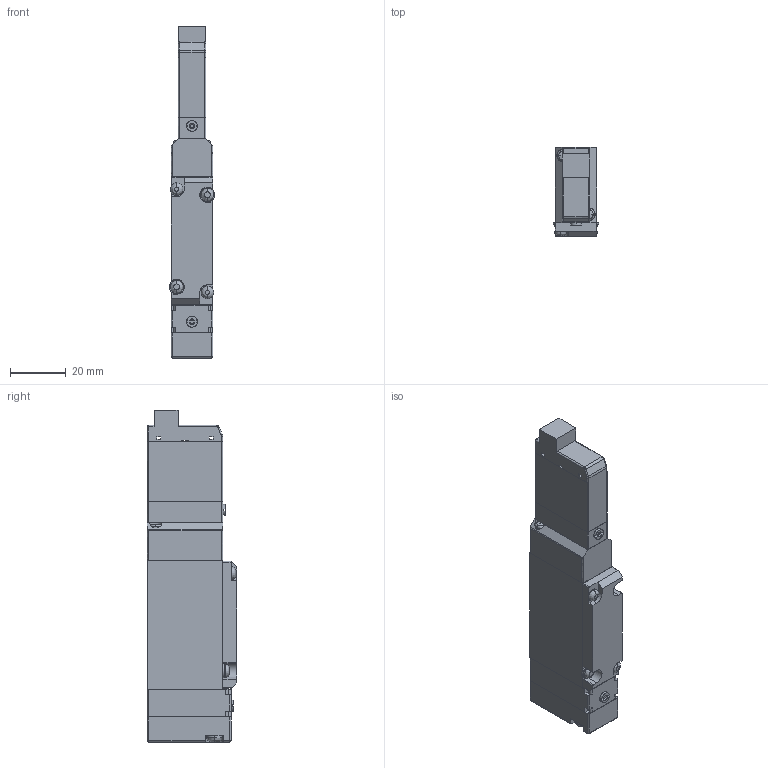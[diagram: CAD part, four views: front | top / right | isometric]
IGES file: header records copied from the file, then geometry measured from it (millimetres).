
Start section: ------------------------------------------------------------------------
Global section: file name: D:\ICADMX\tmp\trans3d_spg\CVICAD02.7120.F15T2-A1-PN_17011.igs; native system: spGate; preprocessor: ver12.6.6; author: Unknown; organization: Unknown; date: 210712.184957; units: millimetre
Bounding box: 16.2 x 32 x 119 mm (x, y, z)
Volume: 44591.9 mm3; surface area: 17146.7 mm2
Topology: 7 solids, 7 shells, 309 faces, 792 edges, 505 vertices
Faces by surface type: bspline 309
